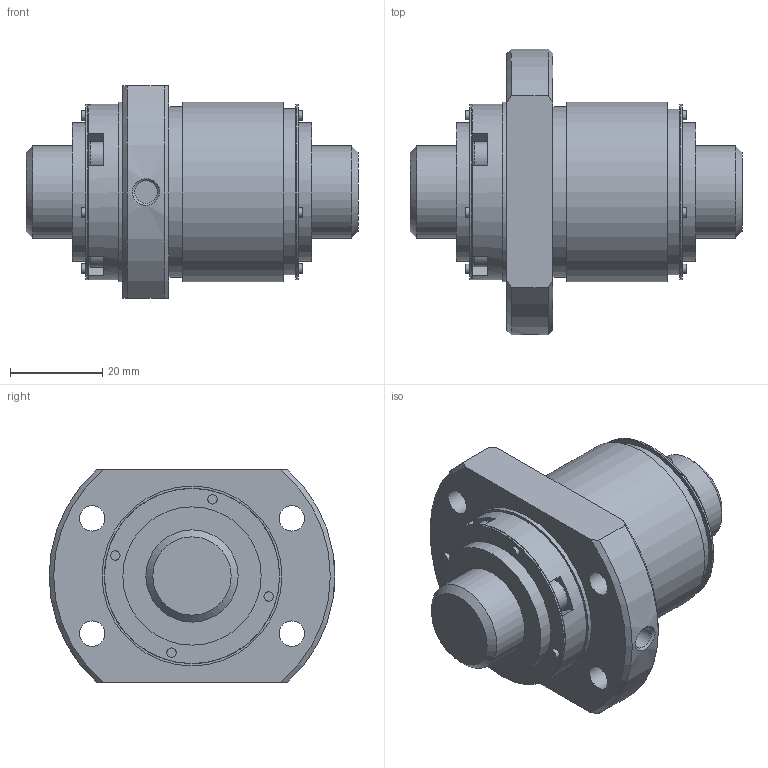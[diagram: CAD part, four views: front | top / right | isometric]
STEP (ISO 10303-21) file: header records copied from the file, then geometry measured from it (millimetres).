
FILE_DESCRIPTION(/* description */ ('STEP AP203'),/* implementation_level */ '2;1');
FILE_NAME(/* name */ 'BLK2020-3.6ZZG1+72LC3_0_1300',/* time_stamp */ '2025-01-16T07:04:41+01:00',/* author */ ('License CC BY-ND 4.0'),/* organization */ ('CADENAS'),/* preprocessor_version */ 'ST-DEVELOPER v19.3',/* originating_system */ 'PARTsolutions',/* authorisation */ ' ');
FILE_SCHEMA (('CONFIG_CONTROL_DESIGN'));
Length unit declared in the file: millimetre
Products named in the file (3): BLK2020-3.6ZZG1+72LC3_0_1300; ZZ0130BLK2020-3.60Shaft; RR0130BLK2020-3.6Nut
Assembly tree (2 placements, depth 2):
  BLK2020-3.6ZZG1+72LC3_0_1300
    ZZ0130BLK2020-3.60Shaft
    RR0130BLK2020-3.6Nut
Bounding box: 72 x 62 x 46 mm (x, y, z)
Volume: 75971.3 mm3; surface area: 21792 mm2
Topology: 2 solids, 2 shells, 154 faces, 343 edges, 214 vertices
Faces by surface type: plane 95, cylinder 38, cone 17, torus 4
Full cylindrical faces by diameter (mm): 2 x8, 3 x4, 4.917 x1, 5.5 x4, 7.2 x4, 20 x2, 30 x2, 36 x1, 37.05 x1, 38 x3, 39 x2
Entity records: 4036 total; most frequent: CARTESIAN_POINT 769, DIRECTION 686, ORIENTED_EDGE 558, AXIS2_PLACEMENT_3D 283, EDGE_CURVE 279, FACE_BOUND 238, EDGE_LOOP 234, VERTEX_POINT 203
